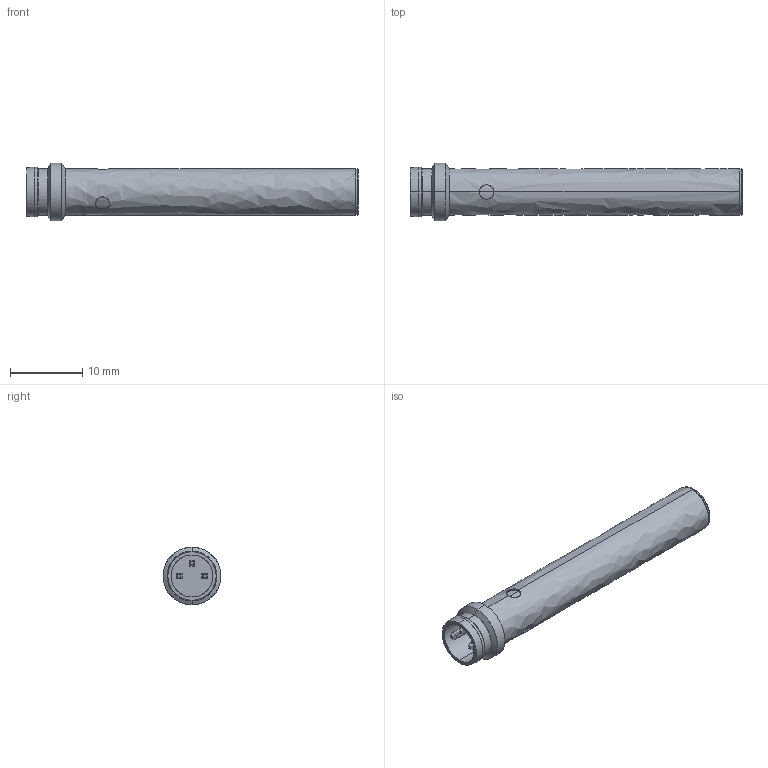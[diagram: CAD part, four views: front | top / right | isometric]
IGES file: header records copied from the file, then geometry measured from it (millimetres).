
Start section: Comment
Global section: file name: IFRM 06xxxA1_S35L.igs; native system:  By Spatial Corp.; preprocessor: XPlus GENERIC/IGES 3.0; author: Author; organization: Title; date: 20040805.075321; units: inch
Bounding box: 45.95 x 8 x 8 mm (x, y, z)
Surface area: 1173 mm2 (no closed solid volume)
Topology: 0 solids, 0 shells, 75 faces, 356 edges, 356 vertices
Faces by surface type: bspline 75
